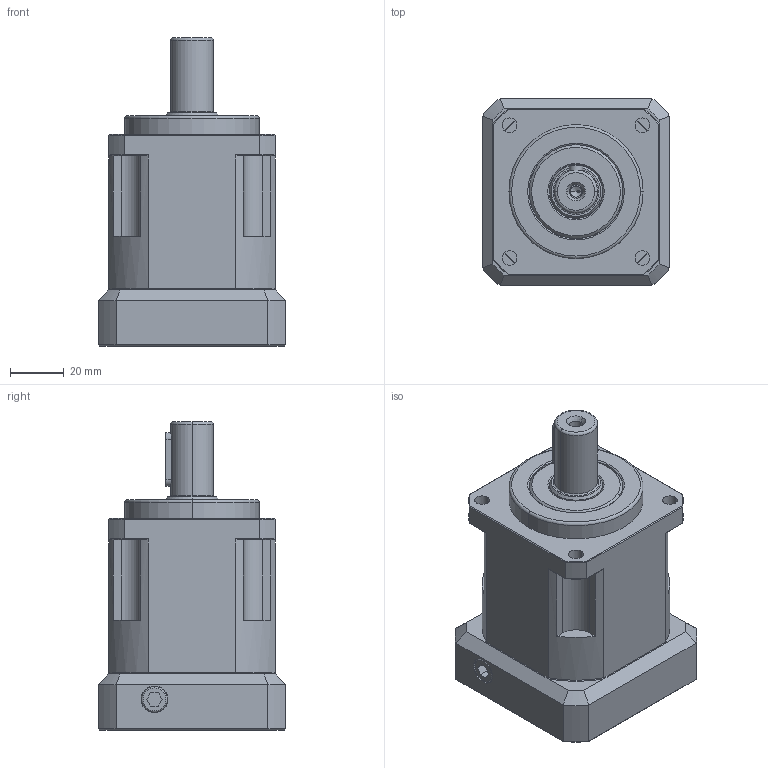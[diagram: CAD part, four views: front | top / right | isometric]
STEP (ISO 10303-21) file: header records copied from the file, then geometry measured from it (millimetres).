
FILE_DESCRIPTION (( 'STEP AP203' ), '1' );
FILE_NAME ('SB62-1-60M5.step', '2021-11-08T06:11:58', ( '' ), ( '' ), 'SwSTEP 2.0', 'SolidWorks 2020', '' );
FILE_SCHEMA (( 'CONFIG_CONTROL_DESIGN' ));
Length unit declared in the file: millimetre
Products named in the file (1): SB62-1-60M5
Bounding box: 70 x 70 x 115 mm (x, y, z)
Volume: 254791.8 mm3; surface area: 54413.8 mm2
Topology: 2 solids, 15 shells, 689 faces, 1657 edges, 1007 vertices
Faces by surface type: plane 286, cylinder 202, cone 156, torus 35, bspline 10
Entity records: 21099 total; most frequent: CARTESIAN_POINT 4844, DIRECTION 3578, ORIENTED_EDGE 3246, EDGE_CURVE 1623, AXIS2_PLACEMENT_3D 1405, VERTEX_POINT 1007, VECTOR 768, LINE 768
